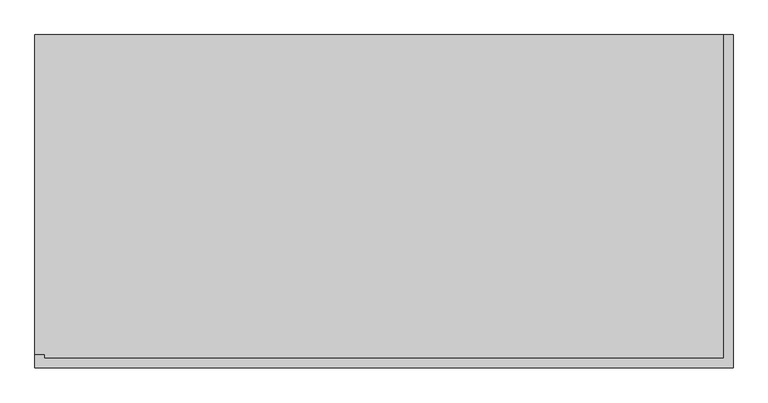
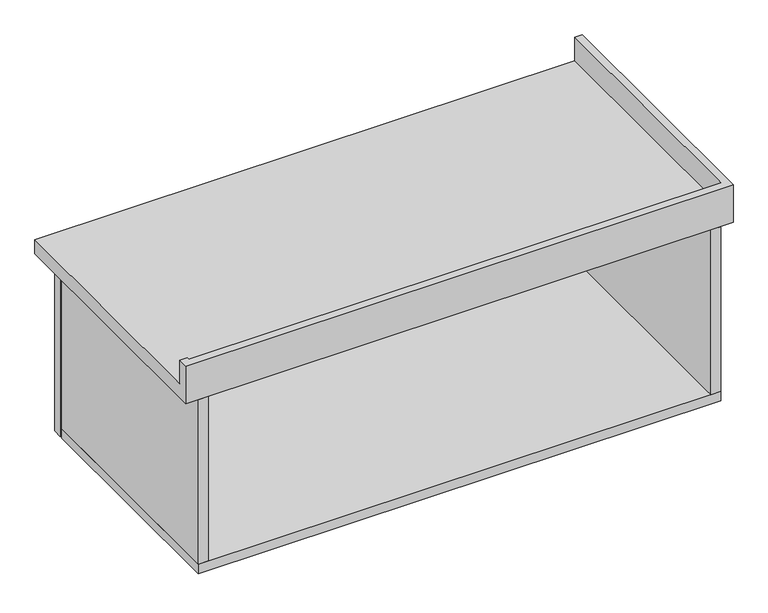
"""IFC4 building model written with IfcOpenShell, lengths in millimetres: furniture geometry, Mueble colgado 2 cajones al lado - lavabo sobreponer : MB5-mueble baño colgado-2 cajones al lado 110 cm."""

from ifc_helpers import new_model, si_unit, frame, origin, place, context, project, spatial, polyline, outline, extrude, faceted_brep, source, transform, mapped, element, save


def furniture_ec71c28c(model_context):
    return source(origin(), model_context, "Body", "SolidModel", [
        extrude(outline(polyline([(-400.0, 490.0), (-400.0, 510.0), (120.0, 510.0), (120.0, 490.0), (-400.0, 490.0)])), frame((0.0, 0.0, 350.0), z_axis=(0.0, 0.0, 1.0), x_axis=(1.0, 0.0, 0.0)), (0.0, 0.0, 1.0), 360.0),
        faceted_brep([(-425.0, 30.0, 800.0), (-410.0, 30.0, 800.0), (-410.0, 30.0, 750.0), (-425.0, 30.0, 750.0), (-425.0, 10.0, 800.0), (675.0, 10.0, 800.0), (675.0, 535.0, 800.0), (660.0, 535.0, 800.0), (660.0, 25.0, 800.0), (-410.0, 25.0, 800.0), (-410.0, 25.0, 750.0), (-425.0, 535.0, 750.0), (-425.0, 535.0, 720.0), (-425.0, 10.0, 720.0), (660.0, 25.0, 750.0), (675.0, 10.0, 720.0), (660.0, 535.0, 750.0), (675.0, 535.0, 720.0)], [[[0, 1, 2, 3]], [[1, 0, 4, 5, 6, 7, 8, 9]], [[2, 1, 9, 10]], [[0, 3, 11, 12, 13, 4]], [[9, 8, 14, 10]], [[5, 4, 13, 15]], [[8, 7, 16, 14]], [[17, 6, 5, 15]], [[11, 3, 2, 10, 14, 16]], [[17, 15, 13, 12]], [[7, 6, 17, 12, 11, 16]]]),
        extrude(outline(polyline([(650.0, 510.0), (650.0, 490.0), (130.0, 490.0), (130.0, 510.0), (650.0, 510.0)])), frame((0.0, 0.0, 350.0), z_axis=(0.0, 0.0, 1.0), x_axis=(1.0, 0.0, 0.0)), (0.0, 0.0, 1.0), 360.0),
        extrude(outline(polyline([(650.0, 10.0), (630.0, 10.0), (630.0, 485.0), (650.0, 485.0), (650.0, 10.0)])), frame((0.0, 0.0, 370.0), z_axis=(0.0, 0.0, 1.0), x_axis=(1.0, 0.0, 0.0)), (0.0, 0.0, 1.0), 350.0),
        extrude(outline(polyline([(-380.0, 10.0), (-400.0, 10.0), (-400.0, 485.0), (-380.0, 485.0), (-380.0, 10.0)])), frame((0.0, 0.0, 370.0), z_axis=(0.0, 0.0, 1.0), x_axis=(1.0, 0.0, 0.0)), (0.0, 0.0, 1.0), 350.0),
        extrude(outline(polyline([(650.0, 485.0), (650.0, 10.0), (-400.0, 10.0), (-400.0, 485.0), (650.0, 485.0)])), frame((0.0, 0.0, 350.0), z_axis=(0.0, 0.0, 1.0), x_axis=(1.0, 0.0, 0.0)), (0.0, 0.0, 1.0), 20.0),
    ])


if __name__ == "__main__":
    model = new_model("IFC4")
    model_context = context("Model", 3, world=origin())
    ifc_project = project(units=[si_unit("LENGTHUNIT", "METRE", prefix="MILLI")], contexts=[model_context])
    site = spatial("IfcSite", under=ifc_project)
    building = spatial("IfcBuilding", under=site)
    placement = place(None, origin())
    furniture_shape = furniture_ec71c28c(model_context)
    element("IfcFurniture", 1, ObjectType="Mueble colgado 2 cajones al lado - lavabo sobreponer : MB5-mueble baño colgado-2 cajones al lado 110 cm", at=placement, inside=building, context=model_context, shape_type="MappedRepresentation", body=[
        mapped(furniture_shape, transform((0.0, 0.0, 0.0), x_axis=(1.0, 0.0, 0.0), y_axis=(0.0, 1.0, 0.0), z_axis=(0.0, 0.0, 1.0))),
    ])
    save(model, "model.ifc")
